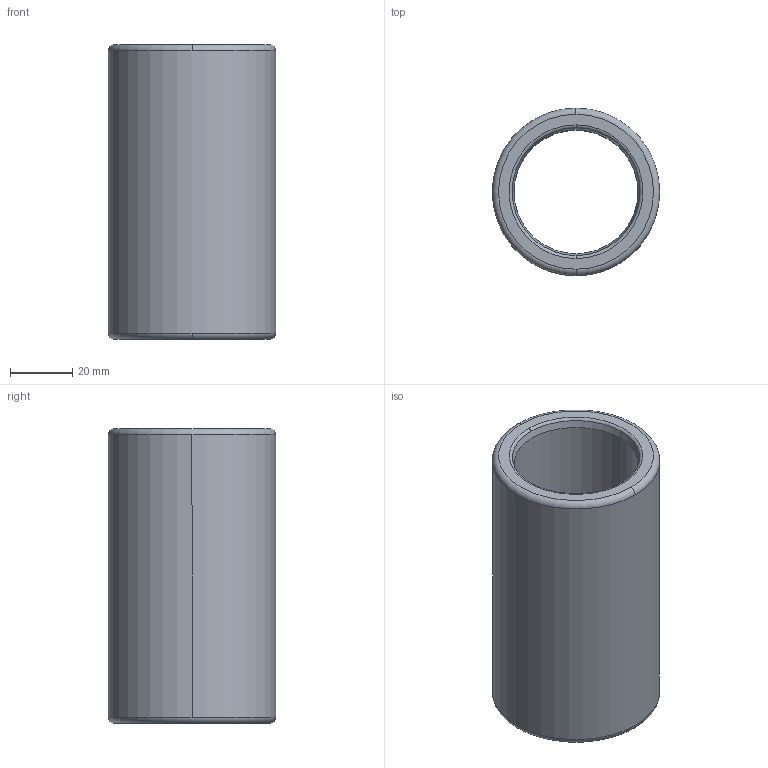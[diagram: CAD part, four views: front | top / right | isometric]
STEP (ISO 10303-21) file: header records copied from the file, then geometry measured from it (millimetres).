
FILE_DESCRIPTION((''),'2;1');
FILE_NAME('B30_032_095.stp','2009-01-12T10:28:14',(''),(''),'Mechanical Desktop 2009','Mechanical Desktop 2009',', , ');
FILE_SCHEMA(('CONFIG_CONTROL_DESIGN'));
Length unit declared in the file: millimetre
Products named in the file (2): Product; blmdl1
Assembly tree (1 placements, depth 2):
  Product
    blmdl1
Bounding box: 53.99 x 53.99 x 95 mm (x, y, z)
Volume: 97666.3 mm3; surface area: 29590.6 mm2
Topology: 1 solids, 1 shells, 18 faces, 48 edges, 32 vertices
Faces by surface type: torus 8, cylinder 4, cone 4, plane 2
Entity records: 705 total; most frequent: DIRECTION 128, CARTESIAN_POINT 100, ORIENTED_EDGE 96, AXIS2_PLACEMENT_3D 60, EDGE_CURVE 48, CIRCLE 40, VERTEX_POINT 32, EDGE_LOOP 20
